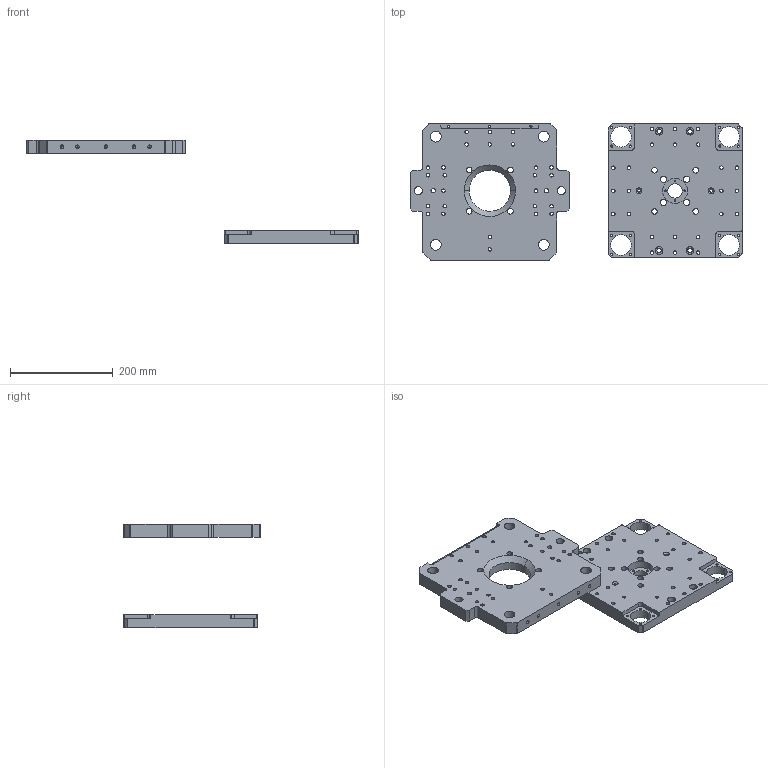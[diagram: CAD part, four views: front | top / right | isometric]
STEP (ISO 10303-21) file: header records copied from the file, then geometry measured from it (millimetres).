
FILE_DESCRIPTION (( 'STEP AP214' ), '1' );
FILE_NAME ('Mold Platen 耀啣V3.STEP', '2025-09-23T20:21:22', ( 'Windows User' ), ( 'P R C' ), 'SwSTEP 2.0', 'SolidWorks 2025', '' );
FILE_SCHEMA (( 'AUTOMOTIVE_DESIGN' ));
Length unit declared in the file: millimetre
Products named in the file (3): Fixed Platen 定模板V3; Moving Platen 动模板V3; Mold Platen 模板V3
Assembly tree (2 placements, depth 2):
  Mold Platen 模板V3
    Fixed Platen 定模板V3
    Moving Platen 动模板V3
Bounding box: 645 x 265 x 202 mm (x, y, z)
Volume: 3111914.1 mm3; surface area: 383389.7 mm2
Topology: 2 solids, 2 shells, 361 faces, 1016 edges, 665 vertices
Faces by surface type: cylinder 284, plane 61, cone 16
Entity records: 12382 total; most frequent: DIRECTION 2296, CARTESIAN_POINT 2061, ORIENTED_EDGE 2012, EDGE_CURVE 1006, AXIS2_PLACEMENT_3D 932, VERTEX_POINT 665, EDGE_LOOP 589, CIRCLE 566
